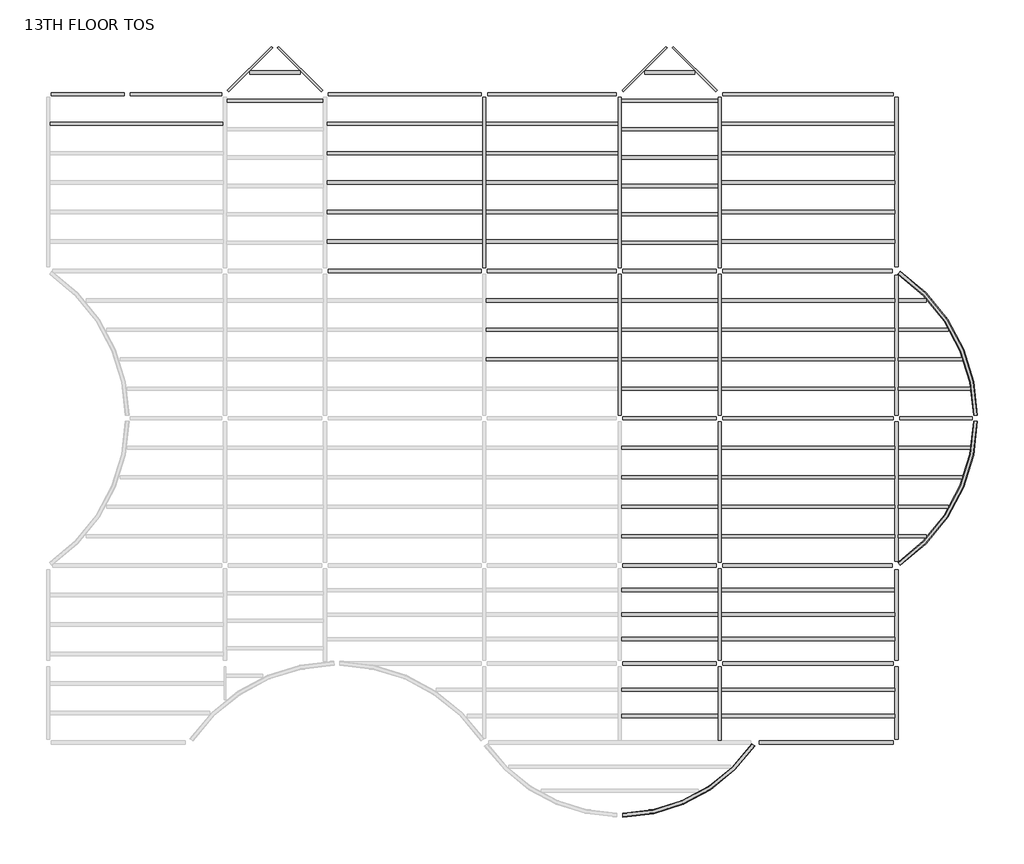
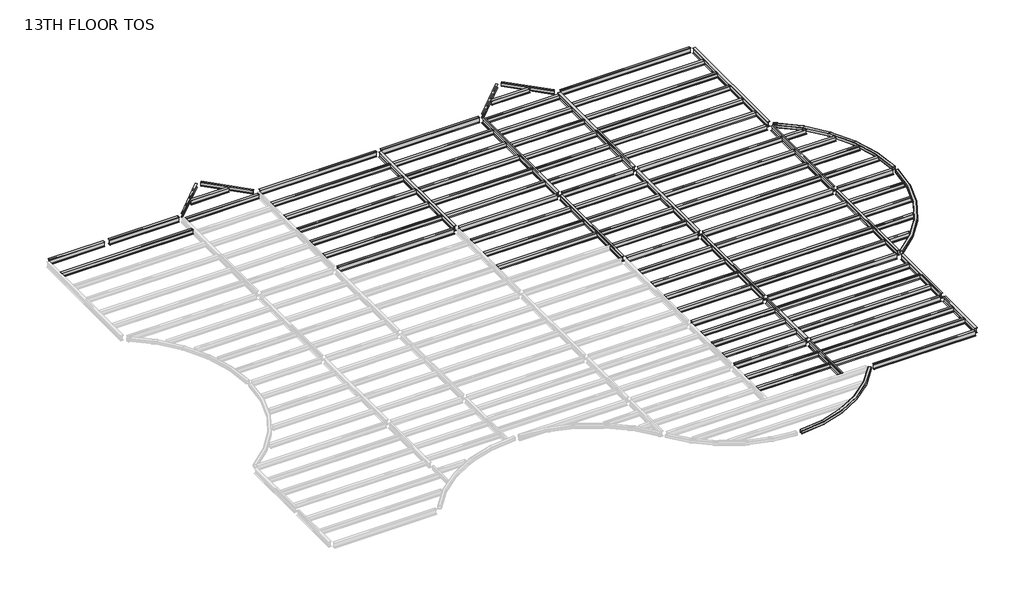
# One storey, part 2 of 2: 99 beams.
"""IFC4 building model written with IfcOpenShell, lengths in millimetres."""

from ifc_helpers import new_model, si_unit, origin, place, context, project, spatial, transform, mapped, element, save
from components import m_hss_square_hss203_2x203_2x9_5_28e91a4e, m_hss_square_hss203_2x203_2x9_5_f31329aa, m_hss_square_hss203_2x203_2x9_5_63507dff, ub_universal_beams_ub254x102x28_7812688d, ub_universal_beams_ub254x102x28_4a38c177, ub_universal_beams_ub305x165x40_c4d0385b, ub_universal_beams_ub305x165x40_19965e16, ub_universal_beams_ub305x165x40_d3abc31d, ub_universal_beams_ub305x165x40_0c73730f, ub_universal_beams_ub305x165x40_2a963f0c, ub_universal_beams_ub305x165x40_9ce7f2ee, ub_universal_beams_ub305x165x40_d184adfd, ub_universal_beams_ub305x165x40_bc7dc938, ub_universal_beams_ub305x165x40_b4233d25, ub_universal_beams_ub356x171x51_c708c058, ub_universal_beams_ub356x171x51_ef72dcdd, ub_universal_beams_ub356x171x51_10b3c54f, ub_universal_beams_ub356x171x51_4c9fd821, ub_universal_beams_ub356x171x51_d1a87c3c, ub_universal_beams_ub356x171x51_fa75724b, ub_universal_beams_ub356x171x51_68db896e, ub_universal_beams_ub356x171x51_c634c4a6, ub_universal_beams_ub356x171x51_995f1560, ub_universal_beams_ub356x171x51_dfc36663, ub_universal_beams_ub356x171x51_11d6b780, ub_universal_beams_ub356x171x51_76b2d20b, ub_universal_beams_ub356x171x51_145ecd4b, ub_universal_beams_ub356x171x51_c7dff8d2, ub_universal_beams_ub356x171x51_8a345439, ub_universal_beams_ub356x171x51_6da510e9, ub_universal_beams_ub356x171x51_e97f8d2e, ub_universal_beams_ub356x171x51_a38b99de, ub_universal_beams_ub356x171x51_d8f4cdde, ub_universal_beams_ub356x171x51_475301e6, ub_universal_beams_ub356x171x51_c03c70fb, ub_universal_beams_ub356x171x51_741bae58

model = new_model("IFC4")

# Units and contexts
model_context = context("Model", 3, world=origin())
ifc_project = project(units=[si_unit("LENGTHUNIT", "METRE", prefix="MILLI")], contexts=[model_context])

# Site, building, storey
site = spatial("IfcSite", under=ifc_project)
building = spatial("IfcBuilding", under=site)
storey = spatial("IfcBuildingStorey", under=building, Name="13TH FLOOR TOS", Elevation=59283.6)

# Beams
placement = place(None, origin())
m_hss_square_hss203_2x203_2x9_5_shape = m_hss_square_hss203_2x203_2x9_5_28e91a4e(model_context)
element("IfcBeam", 1, ObjectType="M_HSS Square : HSS203.2X203.2X9.5", at=placement, inside=storey, context=model_context, shape_type="MappedRepresentation", body=[
    mapped(m_hss_square_hss203_2x203_2x9_5_shape, transform((44027.575, 24539.575, 59182.1), x_axis=(0.8332810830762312, -0.5528495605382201, 0.0), y_axis=(0.5528495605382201, 0.8332810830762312, 0.0), z_axis=(0.0, 0.0, 1.0))),
])
m_hss_square_hss203_2x203_2x9_5_2_shape = m_hss_square_hss203_2x203_2x9_5_f31329aa(model_context)
element("IfcBeam", 2, ObjectType="M_HSS Square : HSS203.2X203.2X9.5", at=placement, inside=storey, context=model_context, shape_type="MappedRepresentation", body=[
    mapped(m_hss_square_hss203_2x203_2x9_5_2_shape, transform((44027.575, 9299.575, 59182.1), x_axis=(0.8332810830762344, 0.5528495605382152, 0.0), y_axis=(-0.5528495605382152, 0.8332810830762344, 0.0), z_axis=(0.0, 0.0, 1.0))),
])
m_hss_square_hss203_2x203_2x9_5_3_shape = m_hss_square_hss203_2x203_2x9_5_63507dff(model_context)
element("IfcBeam", 3, ObjectType="M_HSS Square : HSS203.2X203.2X9.5", at=placement, inside=storey, context=model_context, shape_type="MappedRepresentation", body=[
    mapped(m_hss_square_hss203_2x203_2x9_5_3_shape, transform((36716.575, 155.575, 59182.1), x_axis=(-0.5530174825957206, -0.8331696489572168, 0.0), y_axis=(0.8331696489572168, -0.5530174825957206, 0.0), z_axis=(0.0, 0.0, 1.0))),
])
ub_universal_beams_ub254x102x28_shape = ub_universal_beams_ub254x102x28_7812688d(model_context)
element("IfcBeam", 4, ObjectType="UB-Universal Beams : UB254x102x28", at=placement, inside=storey, context=model_context, shape_type="MappedRepresentation", body=[
    mapped(ub_universal_beams_ub254x102x28_shape, transform((10592.575, 34976.575, 59153.4), x_axis=(0.7071067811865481, 0.7071067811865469, 0.0), y_axis=(-0.7071067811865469, 0.7071067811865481, 0.0), z_axis=(0.0, 0.0, 1.0))),
])
element("IfcBeam", 5, ObjectType="UB-Universal Beams : UB254x102x28", at=placement, inside=storey, context=model_context, shape_type="MappedRepresentation", body=[
    mapped(ub_universal_beams_ub254x102x28_shape, transform((31004.575, 34976.575, 59153.4), x_axis=(0.7071067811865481, 0.7071067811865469, 0.0), y_axis=(-0.7071067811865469, 0.7071067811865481, 0.0), z_axis=(0.0, 0.0, 1.0))),
])
ub_universal_beams_ub254x102x28_2_shape = ub_universal_beams_ub254x102x28_4a38c177(model_context)
element("IfcBeam", 6, ObjectType="UB-Universal Beams : UB254x102x28", at=placement, inside=storey, context=model_context, shape_type="MappedRepresentation", body=[
    mapped(ub_universal_beams_ub254x102x28_2_shape, transform((13178.575, 34976.575, 59153.4), x_axis=(0.707106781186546, -0.707106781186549, 0.0), y_axis=(0.707106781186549, 0.707106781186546, 0.0), z_axis=(0.0, 0.0, 1.0))),
])
element("IfcBeam", 7, ObjectType="UB-Universal Beams : UB254x102x28", at=placement, inside=storey, context=model_context, shape_type="MappedRepresentation", body=[
    mapped(ub_universal_beams_ub254x102x28_2_shape, transform((33590.575, 34976.575, 59153.4), x_axis=(0.7071067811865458, -0.7071067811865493, 0.0), y_axis=(0.7071067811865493, 0.7071067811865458, 0.0), z_axis=(0.0, 0.0, 1.0))),
])
ub_universal_beams_ub305x165x40_shape = ub_universal_beams_ub305x165x40_c4d0385b(model_context)
element("IfcBeam", 8, ObjectType="UB-Universal Beams : UB305x165x40", at=placement, inside=storey, context=model_context, shape_type="MappedRepresentation", body=[
    mapped(ub_universal_beams_ub305x165x40_shape, transform((4727.575, 32159.575, 59131.9), x_axis=(1.0, 0.0, 0.0), y_axis=(0.0, 1.0, 0.0), z_axis=(0.0, 0.0, 1.0))),
])
element("IfcBeam", 9, ObjectType="UB-Universal Beams : UB305x165x40", at=placement, inside=storey, context=model_context, shape_type="MappedRepresentation", body=[
    mapped(ub_universal_beams_ub305x165x40_shape, transform((39455.575, 32159.575, 59131.9), x_axis=(1.0, 0.0, 0.0), y_axis=(0.0, 1.0, 0.0), z_axis=(0.0, 0.0, 1.0))),
])
element("IfcBeam", 10, ObjectType="UB-Universal Beams : UB305x165x40", at=placement, inside=storey, context=model_context, shape_type="MappedRepresentation", body=[
    mapped(ub_universal_beams_ub305x165x40_shape, transform((39455.575, 30635.575, 59131.9), x_axis=(1.0, 0.0, 0.0), y_axis=(0.0, 1.0, 0.0), z_axis=(0.0, 0.0, 1.0))),
])
element("IfcBeam", 11, ObjectType="UB-Universal Beams : UB305x165x40", at=placement, inside=storey, context=model_context, shape_type="MappedRepresentation", body=[
    mapped(ub_universal_beams_ub305x165x40_shape, transform((39455.575, 29111.575, 59131.9), x_axis=(1.0, 0.0, 0.0), y_axis=(0.0, 1.0, 0.0), z_axis=(0.0, 0.0, 1.0))),
])
element("IfcBeam", 12, ObjectType="UB-Universal Beams : UB305x165x40", at=placement, inside=storey, context=model_context, shape_type="MappedRepresentation", body=[
    mapped(ub_universal_beams_ub305x165x40_shape, transform((39455.575, 27587.575, 59131.9), x_axis=(1.0, 0.0, 0.0), y_axis=(0.0, 1.0, 0.0), z_axis=(0.0, 0.0, 1.0))),
])
element("IfcBeam", 13, ObjectType="UB-Universal Beams : UB305x165x40", at=placement, inside=storey, context=model_context, shape_type="MappedRepresentation", body=[
    mapped(ub_universal_beams_ub305x165x40_shape, transform((39455.575, 26063.575, 59131.9), x_axis=(1.0, 0.0, 0.0), y_axis=(0.0, 1.0, 0.0), z_axis=(0.0, 0.0, 1.0))),
])
element("IfcBeam", 14, ObjectType="UB-Universal Beams : UB305x165x40", at=placement, inside=storey, context=model_context, shape_type="MappedRepresentation", body=[
    mapped(ub_universal_beams_ub305x165x40_shape, transform((39455.575, 23015.575, 59131.9), x_axis=(1.0, 0.0, 0.0), y_axis=(0.0, 1.0, 0.0), z_axis=(0.0, 0.0, 1.0))),
])
element("IfcBeam", 15, ObjectType="UB-Universal Beams : UB305x165x40", at=placement, inside=storey, context=model_context, shape_type="MappedRepresentation", body=[
    mapped(ub_universal_beams_ub305x165x40_shape, transform((39455.575, 21491.575, 59131.9), x_axis=(1.0, 0.0, 0.0), y_axis=(0.0, 1.0, 0.0), z_axis=(0.0, 0.0, 1.0))),
])
element("IfcBeam", 16, ObjectType="UB-Universal Beams : UB305x165x40", at=placement, inside=storey, context=model_context, shape_type="MappedRepresentation", body=[
    mapped(ub_universal_beams_ub305x165x40_shape, transform((39455.575, 19967.575, 59131.9), x_axis=(1.0, 0.0, 0.0), y_axis=(0.0, 1.0, 0.0), z_axis=(0.0, 0.0, 1.0))),
])
element("IfcBeam", 17, ObjectType="UB-Universal Beams : UB305x165x40", at=placement, inside=storey, context=model_context, shape_type="MappedRepresentation", body=[
    mapped(ub_universal_beams_ub305x165x40_shape, transform((39455.575, 18443.575, 59131.9), x_axis=(1.0, 0.0, 0.0), y_axis=(0.0, 1.0, 0.0), z_axis=(0.0, 0.0, 1.0))),
])
element("IfcBeam", 18, ObjectType="UB-Universal Beams : UB305x165x40", at=placement, inside=storey, context=model_context, shape_type="MappedRepresentation", body=[
    mapped(ub_universal_beams_ub305x165x40_shape, transform((39455.575, 15395.575, 59131.9), x_axis=(1.0, 0.0, 0.0), y_axis=(0.0, 1.0, 0.0), z_axis=(0.0, 0.0, 1.0))),
])
element("IfcBeam", 19, ObjectType="UB-Universal Beams : UB305x165x40", at=placement, inside=storey, context=model_context, shape_type="MappedRepresentation", body=[
    mapped(ub_universal_beams_ub305x165x40_shape, transform((39455.575, 13871.575, 59131.9), x_axis=(1.0, 0.0, 0.0), y_axis=(0.0, 1.0, 0.0), z_axis=(0.0, 0.0, 1.0))),
])
element("IfcBeam", 20, ObjectType="UB-Universal Beams : UB305x165x40", at=placement, inside=storey, context=model_context, shape_type="MappedRepresentation", body=[
    mapped(ub_universal_beams_ub305x165x40_shape, transform((39455.575, 12347.575, 59131.9), x_axis=(1.0, 0.0, 0.0), y_axis=(0.0, 1.0, 0.0), z_axis=(0.0, 0.0, 1.0))),
])
element("IfcBeam", 21, ObjectType="UB-Universal Beams : UB305x165x40", at=placement, inside=storey, context=model_context, shape_type="MappedRepresentation", body=[
    mapped(ub_universal_beams_ub305x165x40_shape, transform((39455.575, 10823.575, 59131.9), x_axis=(1.0, 0.0, 0.0), y_axis=(0.0, 1.0, 0.0), z_axis=(0.0, 0.0, 1.0))),
])
element("IfcBeam", 22, ObjectType="UB-Universal Beams : UB305x165x40", at=placement, inside=storey, context=model_context, shape_type="MappedRepresentation", body=[
    mapped(ub_universal_beams_ub305x165x40_shape, transform((39455.575, 5508.325, 59131.9), x_axis=(-1.0, 0.0, 0.0), y_axis=(0.0, -1.0, 0.0), z_axis=(0.0, 0.0, 1.0))),
])
element("IfcBeam", 23, ObjectType="UB-Universal Beams : UB305x165x40", at=placement, inside=storey, context=model_context, shape_type="MappedRepresentation", body=[
    mapped(ub_universal_beams_ub305x165x40_shape, transform((39455.575, 6772.075, 59131.9), x_axis=(-1.0, 0.0, 0.0), y_axis=(0.0, -1.0, 0.0), z_axis=(0.0, 0.0, 1.0))),
])
element("IfcBeam", 24, ObjectType="UB-Universal Beams : UB305x165x40", at=placement, inside=storey, context=model_context, shape_type="MappedRepresentation", body=[
    mapped(ub_universal_beams_ub305x165x40_shape, transform((39455.575, 8035.825, 59131.9), x_axis=(-1.0, 0.0, 0.0), y_axis=(0.0, -1.0, 0.0), z_axis=(0.0, 0.0, 1.0))),
])
element("IfcBeam", 25, ObjectType="UB-Universal Beams : UB305x165x40", at=placement, inside=storey, context=model_context, shape_type="MappedRepresentation", body=[
    mapped(ub_universal_beams_ub305x165x40_shape, transform((39455.575, 1518.575, 59131.9), x_axis=(-1.0, 0.0, 0.0), y_axis=(0.0, -1.0, 0.0), z_axis=(0.0, 0.0, 1.0))),
])
element("IfcBeam", 26, ObjectType="UB-Universal Beams : UB305x165x40", at=placement, inside=storey, context=model_context, shape_type="MappedRepresentation", body=[
    mapped(ub_universal_beams_ub305x165x40_shape, transform((39455.575, 2881.575, 59131.9), x_axis=(-1.0, 0.0, 0.0), y_axis=(0.0, -1.0, 0.0), z_axis=(0.0, 0.0, 1.0))),
])
ub_universal_beams_ub305x165x40_2_shape = ub_universal_beams_ub305x165x40_19965e16(model_context)
element("IfcBeam", 27, ObjectType="UB-Universal Beams : UB305x165x40", at=placement, inside=storey, context=model_context, shape_type="MappedRepresentation", body=[
    mapped(ub_universal_beams_ub305x165x40_2_shape, transform((11885.575, 34803.325, 59131.9), x_axis=(1.0, 0.0, 0.0), y_axis=(0.0, 1.0, 0.0), z_axis=(0.0, 0.0, 1.0))),
])
element("IfcBeam", 28, ObjectType="UB-Universal Beams : UB305x165x40", at=placement, inside=storey, context=model_context, shape_type="MappedRepresentation", body=[
    mapped(ub_universal_beams_ub305x165x40_2_shape, transform((32297.575, 34803.325, 59131.9), x_axis=(1.0, 0.0, 0.0), y_axis=(0.0, 1.0, 0.0), z_axis=(0.0, 0.0, 1.0))),
])
ub_universal_beams_ub305x165x40_3_shape = ub_universal_beams_ub305x165x40_d3abc31d(model_context)
element("IfcBeam", 29, ObjectType="UB-Universal Beams : UB305x165x40", at=placement, inside=storey, context=model_context, shape_type="MappedRepresentation", body=[
    mapped(ub_universal_beams_ub305x165x40_3_shape, transform((11885.575, 33337.075, 59131.9), x_axis=(1.0, 0.0, 0.0), y_axis=(0.0, 1.0, 0.0), z_axis=(0.0, 0.0, 1.0))),
])
element("IfcBeam", 30, ObjectType="UB-Universal Beams : UB305x165x40", at=placement, inside=storey, context=model_context, shape_type="MappedRepresentation", body=[
    mapped(ub_universal_beams_ub305x165x40_3_shape, transform((32297.575, 33337.075, 59131.9), x_axis=(1.0, 0.0, 0.0), y_axis=(0.0, 1.0, 0.0), z_axis=(0.0, 0.0, 1.0))),
])
element("IfcBeam", 31, ObjectType="UB-Universal Beams : UB305x165x40", at=placement, inside=storey, context=model_context, shape_type="MappedRepresentation", body=[
    mapped(ub_universal_beams_ub305x165x40_3_shape, transform((32297.575, 31870.825, 59131.9), x_axis=(1.0, 0.0, 0.0), y_axis=(0.0, 1.0, 0.0), z_axis=(0.0, 0.0, 1.0))),
])
element("IfcBeam", 32, ObjectType="UB-Universal Beams : UB305x165x40", at=placement, inside=storey, context=model_context, shape_type="MappedRepresentation", body=[
    mapped(ub_universal_beams_ub305x165x40_3_shape, transform((32297.575, 30404.575, 59131.9), x_axis=(1.0, 0.0, 0.0), y_axis=(0.0, 1.0, 0.0), z_axis=(0.0, 0.0, 1.0))),
])
element("IfcBeam", 33, ObjectType="UB-Universal Beams : UB305x165x40", at=placement, inside=storey, context=model_context, shape_type="MappedRepresentation", body=[
    mapped(ub_universal_beams_ub305x165x40_3_shape, transform((32297.575, 28938.325, 59131.9), x_axis=(1.0, 0.0, 0.0), y_axis=(0.0, 1.0, 0.0), z_axis=(0.0, 0.0, 1.0))),
])
element("IfcBeam", 34, ObjectType="UB-Universal Beams : UB305x165x40", at=placement, inside=storey, context=model_context, shape_type="MappedRepresentation", body=[
    mapped(ub_universal_beams_ub305x165x40_3_shape, transform((32297.575, 27472.075, 59131.9), x_axis=(1.0, 0.0, 0.0), y_axis=(0.0, 1.0, 0.0), z_axis=(0.0, 0.0, 1.0))),
])
element("IfcBeam", 35, ObjectType="UB-Universal Beams : UB305x165x40", at=placement, inside=storey, context=model_context, shape_type="MappedRepresentation", body=[
    mapped(ub_universal_beams_ub305x165x40_3_shape, transform((32297.575, 26005.825, 59131.9), x_axis=(1.0, 0.0, 0.0), y_axis=(0.0, 1.0, 0.0), z_axis=(0.0, 0.0, 1.0))),
])
element("IfcBeam", 36, ObjectType="UB-Universal Beams : UB305x165x40", at=placement, inside=storey, context=model_context, shape_type="MappedRepresentation", body=[
    mapped(ub_universal_beams_ub305x165x40_3_shape, transform((32297.575, 1518.575, 59131.9), x_axis=(-1.0, 0.0, 0.0), y_axis=(0.0, -1.0, 0.0), z_axis=(0.0, 0.0, 1.0))),
])
element("IfcBeam", 37, ObjectType="UB-Universal Beams : UB305x165x40", at=placement, inside=storey, context=model_context, shape_type="MappedRepresentation", body=[
    mapped(ub_universal_beams_ub305x165x40_3_shape, transform((32297.575, 2881.575, 59131.9), x_axis=(-1.0, 0.0, 0.0), y_axis=(0.0, -1.0, 0.0), z_axis=(0.0, 0.0, 1.0))),
])
element("IfcBeam", 38, ObjectType="UB-Universal Beams : UB305x165x40", at=placement, inside=storey, context=model_context, shape_type="MappedRepresentation", body=[
    mapped(ub_universal_beams_ub305x165x40_3_shape, transform((32297.575, 5508.325, 59131.9), x_axis=(-1.0, 0.0, 0.0), y_axis=(0.0, -1.0, 0.0), z_axis=(0.0, 0.0, 1.0))),
])
element("IfcBeam", 39, ObjectType="UB-Universal Beams : UB305x165x40", at=placement, inside=storey, context=model_context, shape_type="MappedRepresentation", body=[
    mapped(ub_universal_beams_ub305x165x40_3_shape, transform((32297.575, 6772.075, 59131.9), x_axis=(-1.0, 0.0, 0.0), y_axis=(0.0, -1.0, 0.0), z_axis=(0.0, 0.0, 1.0))),
])
element("IfcBeam", 40, ObjectType="UB-Universal Beams : UB305x165x40", at=placement, inside=storey, context=model_context, shape_type="MappedRepresentation", body=[
    mapped(ub_universal_beams_ub305x165x40_3_shape, transform((32297.575, 8035.825, 59131.9), x_axis=(-1.0, 0.0, 0.0), y_axis=(0.0, -1.0, 0.0), z_axis=(0.0, 0.0, 1.0))),
])
element("IfcBeam", 41, ObjectType="UB-Universal Beams : UB305x165x40", at=placement, inside=storey, context=model_context, shape_type="MappedRepresentation", body=[
    mapped(ub_universal_beams_ub305x165x40_3_shape, transform((32297.575, 15395.575, 59131.9), x_axis=(1.0, 0.0, 0.0), y_axis=(0.0, 1.0, 0.0), z_axis=(0.0, 0.0, 1.0))),
])
element("IfcBeam", 42, ObjectType="UB-Universal Beams : UB305x165x40", at=placement, inside=storey, context=model_context, shape_type="MappedRepresentation", body=[
    mapped(ub_universal_beams_ub305x165x40_3_shape, transform((32297.575, 13871.575, 59131.9), x_axis=(1.0, 0.0, 0.0), y_axis=(0.0, 1.0, 0.0), z_axis=(0.0, 0.0, 1.0))),
])
element("IfcBeam", 43, ObjectType="UB-Universal Beams : UB305x165x40", at=placement, inside=storey, context=model_context, shape_type="MappedRepresentation", body=[
    mapped(ub_universal_beams_ub305x165x40_3_shape, transform((32297.575, 12347.575, 59131.9), x_axis=(1.0, 0.0, 0.0), y_axis=(0.0, 1.0, 0.0), z_axis=(0.0, 0.0, 1.0))),
])
element("IfcBeam", 44, ObjectType="UB-Universal Beams : UB305x165x40", at=placement, inside=storey, context=model_context, shape_type="MappedRepresentation", body=[
    mapped(ub_universal_beams_ub305x165x40_3_shape, transform((32297.575, 10823.575, 59131.9), x_axis=(1.0, 0.0, 0.0), y_axis=(0.0, 1.0, 0.0), z_axis=(0.0, 0.0, 1.0))),
])
element("IfcBeam", 45, ObjectType="UB-Universal Beams : UB305x165x40", at=placement, inside=storey, context=model_context, shape_type="MappedRepresentation", body=[
    mapped(ub_universal_beams_ub305x165x40_3_shape, transform((32297.575, 23015.575, 59131.9), x_axis=(1.0, 0.0, 0.0), y_axis=(0.0, 1.0, 0.0), z_axis=(0.0, 0.0, 1.0))),
])
element("IfcBeam", 46, ObjectType="UB-Universal Beams : UB305x165x40", at=placement, inside=storey, context=model_context, shape_type="MappedRepresentation", body=[
    mapped(ub_universal_beams_ub305x165x40_3_shape, transform((32297.575, 21491.575, 59131.9), x_axis=(1.0, 0.0, 0.0), y_axis=(0.0, 1.0, 0.0), z_axis=(0.0, 0.0, 1.0))),
])
element("IfcBeam", 47, ObjectType="UB-Universal Beams : UB305x165x40", at=placement, inside=storey, context=model_context, shape_type="MappedRepresentation", body=[
    mapped(ub_universal_beams_ub305x165x40_3_shape, transform((32297.575, 19967.575, 59131.9), x_axis=(1.0, 0.0, 0.0), y_axis=(0.0, 1.0, 0.0), z_axis=(0.0, 0.0, 1.0))),
])
element("IfcBeam", 48, ObjectType="UB-Universal Beams : UB305x165x40", at=placement, inside=storey, context=model_context, shape_type="MappedRepresentation", body=[
    mapped(ub_universal_beams_ub305x165x40_3_shape, transform((32297.575, 18443.575, 59131.9), x_axis=(1.0, 0.0, 0.0), y_axis=(0.0, 1.0, 0.0), z_axis=(0.0, 0.0, 1.0))),
])
ub_universal_beams_ub305x165x40_4_shape = ub_universal_beams_ub305x165x40_0c73730f(model_context)
element("IfcBeam", 49, ObjectType="UB-Universal Beams : UB305x165x40", at=placement, inside=storey, context=model_context, shape_type="MappedRepresentation", body=[
    mapped(ub_universal_beams_ub305x165x40_4_shape, transform((18591.075, 32159.575, 59131.9), x_axis=(1.0, 0.0, 0.0), y_axis=(0.0, 1.0, 0.0), z_axis=(0.0, 0.0, 1.0))),
])
element("IfcBeam", 50, ObjectType="UB-Universal Beams : UB305x165x40", at=placement, inside=storey, context=model_context, shape_type="MappedRepresentation", body=[
    mapped(ub_universal_beams_ub305x165x40_4_shape, transform((18591.075, 30635.575, 59131.9), x_axis=(1.0, 0.0, 0.0), y_axis=(0.0, 1.0, 0.0), z_axis=(0.0, 0.0, 1.0))),
])
element("IfcBeam", 51, ObjectType="UB-Universal Beams : UB305x165x40", at=placement, inside=storey, context=model_context, shape_type="MappedRepresentation", body=[
    mapped(ub_universal_beams_ub305x165x40_4_shape, transform((18591.075, 29111.575, 59131.9), x_axis=(1.0, 0.0, 0.0), y_axis=(0.0, 1.0, 0.0), z_axis=(0.0, 0.0, 1.0))),
])
element("IfcBeam", 52, ObjectType="UB-Universal Beams : UB305x165x40", at=placement, inside=storey, context=model_context, shape_type="MappedRepresentation", body=[
    mapped(ub_universal_beams_ub305x165x40_4_shape, transform((18591.075, 27587.575, 59131.9), x_axis=(1.0, 0.0, 0.0), y_axis=(0.0, 1.0, 0.0), z_axis=(0.0, 0.0, 1.0))),
])
element("IfcBeam", 53, ObjectType="UB-Universal Beams : UB305x165x40", at=placement, inside=storey, context=model_context, shape_type="MappedRepresentation", body=[
    mapped(ub_universal_beams_ub305x165x40_4_shape, transform((18591.075, 26063.575, 59131.9), x_axis=(1.0, 0.0, 0.0), y_axis=(0.0, 1.0, 0.0), z_axis=(0.0, 0.0, 1.0))),
])
ub_universal_beams_ub305x165x40_5_shape = ub_universal_beams_ub305x165x40_2a963f0c(model_context)
element("IfcBeam", 54, ObjectType="UB-Universal Beams : UB305x165x40", at=placement, inside=storey, context=model_context, shape_type="MappedRepresentation", body=[
    mapped(ub_universal_beams_ub305x165x40_5_shape, transform((26211.075, 32159.575, 59131.9), x_axis=(1.0, 0.0, 0.0), y_axis=(0.0, 1.0, 0.0), z_axis=(0.0, 0.0, 1.0))),
])
element("IfcBeam", 55, ObjectType="UB-Universal Beams : UB305x165x40", at=placement, inside=storey, context=model_context, shape_type="MappedRepresentation", body=[
    mapped(ub_universal_beams_ub305x165x40_5_shape, transform((26211.075, 30635.575, 59131.9), x_axis=(1.0, 0.0, 0.0), y_axis=(0.0, 1.0, 0.0), z_axis=(0.0, 0.0, 1.0))),
])
element("IfcBeam", 56, ObjectType="UB-Universal Beams : UB305x165x40", at=placement, inside=storey, context=model_context, shape_type="MappedRepresentation", body=[
    mapped(ub_universal_beams_ub305x165x40_5_shape, transform((26211.075, 29111.575, 59131.9), x_axis=(1.0, 0.0, 0.0), y_axis=(0.0, 1.0, 0.0), z_axis=(0.0, 0.0, 1.0))),
])
element("IfcBeam", 57, ObjectType="UB-Universal Beams : UB305x165x40", at=placement, inside=storey, context=model_context, shape_type="MappedRepresentation", body=[
    mapped(ub_universal_beams_ub305x165x40_5_shape, transform((26211.075, 27587.575, 59131.9), x_axis=(1.0, 0.0, 0.0), y_axis=(0.0, 1.0, 0.0), z_axis=(0.0, 0.0, 1.0))),
])
element("IfcBeam", 58, ObjectType="UB-Universal Beams : UB305x165x40", at=placement, inside=storey, context=model_context, shape_type="MappedRepresentation", body=[
    mapped(ub_universal_beams_ub305x165x40_5_shape, transform((26211.075, 26063.575, 59131.9), x_axis=(1.0, 0.0, 0.0), y_axis=(0.0, 1.0, 0.0), z_axis=(0.0, 0.0, 1.0))),
])
element("IfcBeam", 59, ObjectType="UB-Universal Beams : UB305x165x40", at=placement, inside=storey, context=model_context, shape_type="MappedRepresentation", body=[
    mapped(ub_universal_beams_ub305x165x40_5_shape, transform((26211.075, 23015.575, 59131.9), x_axis=(1.0, 0.0, 0.0), y_axis=(0.0, 1.0, 0.0), z_axis=(0.0, 0.0, 1.0))),
])
element("IfcBeam", 60, ObjectType="UB-Universal Beams : UB305x165x40", at=placement, inside=storey, context=model_context, shape_type="MappedRepresentation", body=[
    mapped(ub_universal_beams_ub305x165x40_5_shape, transform((26211.075, 21491.575, 59131.9), x_axis=(1.0, 0.0, 0.0), y_axis=(0.0, 1.0, 0.0), z_axis=(0.0, 0.0, 1.0))),
])
element("IfcBeam", 61, ObjectType="UB-Universal Beams : UB305x165x40", at=placement, inside=storey, context=model_context, shape_type="MappedRepresentation", body=[
    mapped(ub_universal_beams_ub305x165x40_5_shape, transform((26211.075, 19967.575, 59131.9), x_axis=(1.0, 0.0, 0.0), y_axis=(0.0, 1.0, 0.0), z_axis=(0.0, 0.0, 1.0))),
])
ub_universal_beams_ub305x165x40_6_shape = ub_universal_beams_ub305x165x40_9ce7f2ee(model_context)
element("IfcBeam", 62, ObjectType="UB-Universal Beams : UB305x165x40", at=placement, inside=storey, context=model_context, shape_type="MappedRepresentation", body=[
    mapped(ub_universal_beams_ub305x165x40_6_shape, transform((44907.9405309, 23015.575, 59131.9), x_axis=(1.0, 0.0, 0.0), y_axis=(0.0, 1.0, 0.0), z_axis=(0.0, 0.0, 1.0))),
])
element("IfcBeam", 63, ObjectType="UB-Universal Beams : UB305x165x40", at=placement, inside=storey, context=model_context, shape_type="MappedRepresentation", body=[
    mapped(ub_universal_beams_ub305x165x40_6_shape, transform((44907.9405309, 10823.575, 59131.9), x_axis=(1.0, 0.0, 0.0), y_axis=(0.0, 1.0, 0.0), z_axis=(0.0, 0.0, 1.0))),
])
ub_universal_beams_ub305x165x40_7_shape = ub_universal_beams_ub305x165x40_d184adfd(model_context)
element("IfcBeam", 64, ObjectType="UB-Universal Beams : UB305x165x40", at=placement, inside=storey, context=model_context, shape_type="MappedRepresentation", body=[
    mapped(ub_universal_beams_ub305x165x40_7_shape, transform((45459.5874928, 21491.575, 59131.9), x_axis=(1.0, 0.0, 0.0), y_axis=(0.0, 1.0, 0.0), z_axis=(0.0, 0.0, 1.0))),
])
element("IfcBeam", 65, ObjectType="UB-Universal Beams : UB305x165x40", at=placement, inside=storey, context=model_context, shape_type="MappedRepresentation", body=[
    mapped(ub_universal_beams_ub305x165x40_7_shape, transform((45459.5874928, 12347.575, 59131.9), x_axis=(1.0, 0.0, 0.0), y_axis=(0.0, 1.0, 0.0), z_axis=(0.0, 0.0, 1.0))),
])
ub_universal_beams_ub305x165x40_8_shape = ub_universal_beams_ub305x165x40_bc7dc938(model_context)
element("IfcBeam", 66, ObjectType="UB-Universal Beams : UB305x165x40", at=placement, inside=storey, context=model_context, shape_type="MappedRepresentation", body=[
    mapped(ub_universal_beams_ub305x165x40_8_shape, transform((45810.6153272, 19967.575, 59131.9), x_axis=(1.0, 0.0, 0.0), y_axis=(0.0, 1.0, 0.0), z_axis=(0.0, 0.0, 1.0))),
])
element("IfcBeam", 67, ObjectType="UB-Universal Beams : UB305x165x40", at=placement, inside=storey, context=model_context, shape_type="MappedRepresentation", body=[
    mapped(ub_universal_beams_ub305x165x40_8_shape, transform((45810.6153272, 13871.575, 59131.9), x_axis=(1.0, 0.0, 0.0), y_axis=(0.0, 1.0, 0.0), z_axis=(0.0, 0.0, 1.0))),
])
ub_universal_beams_ub305x165x40_9_shape = ub_universal_beams_ub305x165x40_b4233d25(model_context)
element("IfcBeam", 68, ObjectType="UB-Universal Beams : UB305x165x40", at=placement, inside=storey, context=model_context, shape_type="MappedRepresentation", body=[
    mapped(ub_universal_beams_ub305x165x40_9_shape, transform((46008.1318611, 18443.575, 59131.9), x_axis=(1.0, 0.0, 0.0), y_axis=(0.0, 1.0, 0.0), z_axis=(0.0, 0.0, 1.0))),
])
element("IfcBeam", 69, ObjectType="UB-Universal Beams : UB305x165x40", at=placement, inside=storey, context=model_context, shape_type="MappedRepresentation", body=[
    mapped(ub_universal_beams_ub305x165x40_9_shape, transform((46008.1318611, 15395.575, 59131.9), x_axis=(1.0, 0.0, 0.0), y_axis=(0.0, 1.0, 0.0), z_axis=(0.0, 0.0, 1.0))),
])
ub_universal_beams_ub356x171x51_shape = ub_universal_beams_ub356x171x51_c708c058(model_context)
element("IfcBeam", 70, ObjectType="UB-Universal Beams : UB356x171x51", at=placement, inside=storey, context=model_context, shape_type="MappedRepresentation", body=[
    mapped(ub_universal_beams_ub356x171x51_shape, transform((2200.075, 33683.575, 59106.1), x_axis=(1.0, 0.0, 0.0), y_axis=(0.0, 1.0, 0.0), z_axis=(0.0, 0.0, 1.0))),
])
ub_universal_beams_ub356x171x51_2_shape = ub_universal_beams_ub356x171x51_ef72dcdd(model_context)
element("IfcBeam", 71, ObjectType="UB-Universal Beams : UB356x171x51", at=placement, inside=storey, context=model_context, shape_type="MappedRepresentation", body=[
    mapped(ub_universal_beams_ub356x171x51_2_shape, transform((6772.075, 33683.575, 59106.1), x_axis=(1.0, 0.0, 0.0), y_axis=(0.0, 1.0, 0.0), z_axis=(0.0, 0.0, 1.0))),
])
element("IfcBeam", 72, ObjectType="UB-Universal Beams : UB356x171x51", at=placement, inside=storey, context=model_context, shape_type="MappedRepresentation", body=[
    mapped(ub_universal_beams_ub356x171x51_2_shape, transform((34883.575, 6772.075, 59106.1), x_axis=(0.0, -1.0, 0.0), y_axis=(1.0, 0.0, 0.0), z_axis=(0.0, 0.0, 1.0))),
])
ub_universal_beams_ub356x171x51_3_shape = ub_universal_beams_ub356x171x51_10b3c54f(model_context)
element("IfcBeam", 73, ObjectType="UB-Universal Beams : UB356x171x51", at=placement, inside=storey, context=model_context, shape_type="MappedRepresentation", body=[
    mapped(ub_universal_beams_ub356x171x51_3_shape, transform((18591.075, 33683.575, 59106.1), x_axis=(1.0, 0.0, 0.0), y_axis=(0.0, 1.0, 0.0), z_axis=(0.0, 0.0, 1.0))),
])
ub_universal_beams_ub356x171x51_4_shape = ub_universal_beams_ub356x171x51_4c9fd821(model_context)
element("IfcBeam", 74, ObjectType="UB-Universal Beams : UB356x171x51", at=placement, inside=storey, context=model_context, shape_type="MappedRepresentation", body=[
    mapped(ub_universal_beams_ub356x171x51_4_shape, transform((26211.075, 33683.575, 59106.1), x_axis=(1.0, 0.0, 0.0), y_axis=(0.0, 1.0, 0.0), z_axis=(0.0, 0.0, 1.0))),
])
ub_universal_beams_ub356x171x51_5_shape = ub_universal_beams_ub356x171x51_d1a87c3c(model_context)
element("IfcBeam", 75, ObjectType="UB-Universal Beams : UB356x171x51", at=placement, inside=storey, context=model_context, shape_type="MappedRepresentation", body=[
    mapped(ub_universal_beams_ub356x171x51_5_shape, transform((39455.575, 33683.575, 59106.1), x_axis=(1.0, 0.0, 0.0), y_axis=(0.0, 1.0, 0.0), z_axis=(0.0, 0.0, 1.0))),
])
ub_universal_beams_ub356x171x51_6_shape = ub_universal_beams_ub356x171x51_fa75724b(model_context)
element("IfcBeam", 76, ObjectType="UB-Universal Beams : UB356x171x51", at=placement, inside=storey, context=model_context, shape_type="MappedRepresentation", body=[
    mapped(ub_universal_beams_ub356x171x51_6_shape, transform((44027.575, 29111.575, 59106.1), x_axis=(0.0, -1.0, 0.0), y_axis=(1.0, 0.0, 0.0), z_axis=(0.0, 0.0, 1.0))),
])
ub_universal_beams_ub356x171x51_7_shape = ub_universal_beams_ub356x171x51_68db896e(model_context)
element("IfcBeam", 77, ObjectType="UB-Universal Beams : UB356x171x51", at=placement, inside=storey, context=model_context, shape_type="MappedRepresentation", body=[
    mapped(ub_universal_beams_ub356x171x51_7_shape, transform((44027.575, 6772.075, 59106.1), x_axis=(0.0, -1.0, 0.0), y_axis=(1.0, 0.0, 0.0), z_axis=(0.0, 0.0, 1.0))),
])
ub_universal_beams_ub356x171x51_8_shape = ub_universal_beams_ub356x171x51_c634c4a6(model_context)
element("IfcBeam", 78, ObjectType="UB-Universal Beams : UB356x171x51", at=placement, inside=storey, context=model_context, shape_type="MappedRepresentation", body=[
    mapped(ub_universal_beams_ub356x171x51_8_shape, transform((44027.575, 2200.075, 59106.1), x_axis=(0.0, -1.0, 0.0), y_axis=(1.0, 0.0, 0.0), z_axis=(0.0, 0.0, 1.0))),
])
ub_universal_beams_ub356x171x51_9_shape = ub_universal_beams_ub356x171x51_995f1560(model_context)
element("IfcBeam", 79, ObjectType="UB-Universal Beams : UB356x171x51", at=placement, inside=storey, context=model_context, shape_type="MappedRepresentation", body=[
    mapped(ub_universal_beams_ub356x171x51_9_shape, transform((40372.075, 155.575, 59106.1), x_axis=(-1.0, 0.0, 0.0), y_axis=(0.0, -1.0, 0.0), z_axis=(0.0, 0.0, 1.0))),
])
ub_universal_beams_ub356x171x51_10_shape = ub_universal_beams_ub356x171x51_dfc36663(model_context)
element("IfcBeam", 80, ObjectType="UB-Universal Beams : UB356x171x51", at=placement, inside=storey, context=model_context, shape_type="MappedRepresentation", body=[
    mapped(ub_universal_beams_ub356x171x51_10_shape, transform((46072.075, 16919.575, 59106.1), x_axis=(1.0, 0.0, 0.0), y_axis=(0.0, 1.0, 0.0), z_axis=(0.0, 0.0, 1.0))),
])
ub_universal_beams_ub356x171x51_11_shape = ub_universal_beams_ub356x171x51_11d6b780(model_context)
element("IfcBeam", 81, ObjectType="UB-Universal Beams : UB356x171x51", at=placement, inside=storey, context=model_context, shape_type="MappedRepresentation", body=[
    mapped(ub_universal_beams_ub356x171x51_11_shape, transform((32297.575, 24539.575, 59106.1), x_axis=(1.0, 0.0, 0.0), y_axis=(0.0, 1.0, 0.0), z_axis=(0.0, 0.0, 1.0))),
])
element("IfcBeam", 82, ObjectType="UB-Universal Beams : UB356x171x51", at=placement, inside=storey, context=model_context, shape_type="MappedRepresentation", body=[
    mapped(ub_universal_beams_ub356x171x51_11_shape, transform((32297.575, 9299.575, 59106.1), x_axis=(-1.0, 0.0, 0.0), y_axis=(0.0, -1.0, 0.0), z_axis=(0.0, 0.0, 1.0))),
])
element("IfcBeam", 83, ObjectType="UB-Universal Beams : UB356x171x51", at=placement, inside=storey, context=model_context, shape_type="MappedRepresentation", body=[
    mapped(ub_universal_beams_ub356x171x51_11_shape, transform((32297.575, 16919.575, 59106.1), x_axis=(1.0, 0.0, 0.0), y_axis=(0.0, 1.0, 0.0), z_axis=(0.0, 0.0, 1.0))),
])
element("IfcBeam", 84, ObjectType="UB-Universal Beams : UB356x171x51", at=placement, inside=storey, context=model_context, shape_type="MappedRepresentation", body=[
    mapped(ub_universal_beams_ub356x171x51_11_shape, transform((32297.575, 4244.575, 59106.1), x_axis=(-1.0, 0.0, 0.0), y_axis=(0.0, -1.0, 0.0), z_axis=(0.0, 0.0, 1.0))),
])
ub_universal_beams_ub356x171x51_12_shape = ub_universal_beams_ub356x171x51_76b2d20b(model_context)
element("IfcBeam", 85, ObjectType="UB-Universal Beams : UB356x171x51", at=placement, inside=storey, context=model_context, shape_type="MappedRepresentation", body=[
    mapped(ub_universal_beams_ub356x171x51_12_shape, transform((18591.075, 24539.575, 59106.1), x_axis=(1.0, 0.0, 0.0), y_axis=(0.0, 1.0, 0.0), z_axis=(0.0, 0.0, 1.0))),
])
ub_universal_beams_ub356x171x51_13_shape = ub_universal_beams_ub356x171x51_145ecd4b(model_context)
element("IfcBeam", 86, ObjectType="UB-Universal Beams : UB356x171x51", at=placement, inside=storey, context=model_context, shape_type="MappedRepresentation", body=[
    mapped(ub_universal_beams_ub356x171x51_13_shape, transform((26211.075, 24539.575, 59106.1), x_axis=(1.0, 0.0, 0.0), y_axis=(0.0, 1.0, 0.0), z_axis=(0.0, 0.0, 1.0))),
])
ub_universal_beams_ub356x171x51_14_shape = ub_universal_beams_ub356x171x51_c7dff8d2(model_context)
element("IfcBeam", 87, ObjectType="UB-Universal Beams : UB356x171x51", at=placement, inside=storey, context=model_context, shape_type="MappedRepresentation", body=[
    mapped(ub_universal_beams_ub356x171x51_14_shape, transform((39455.575, 24539.575, 59106.1), x_axis=(1.0, 0.0, 0.0), y_axis=(0.0, 1.0, 0.0), z_axis=(0.0, 0.0, 1.0))),
])
ub_universal_beams_ub356x171x51_15_shape = ub_universal_beams_ub356x171x51_8a345439(model_context)
element("IfcBeam", 88, ObjectType="UB-Universal Beams : UB356x171x51", at=placement, inside=storey, context=model_context, shape_type="MappedRepresentation", body=[
    mapped(ub_universal_beams_ub356x171x51_15_shape, transform((44027.575, 20729.575, 59106.1), x_axis=(0.0, -1.0, 0.0), y_axis=(1.0, 0.0, 0.0), z_axis=(0.0, 0.0, 1.0))),
])
ub_universal_beams_ub356x171x51_16_shape = ub_universal_beams_ub356x171x51_6da510e9(model_context)
element("IfcBeam", 89, ObjectType="UB-Universal Beams : UB356x171x51", at=placement, inside=storey, context=model_context, shape_type="MappedRepresentation", body=[
    mapped(ub_universal_beams_ub356x171x51_16_shape, transform((44027.575, 13109.575, 59106.1), x_axis=(0.0, -1.0, 0.0), y_axis=(1.0, 0.0, 0.0), z_axis=(0.0, 0.0, 1.0))),
])
ub_universal_beams_ub356x171x51_17_shape = ub_universal_beams_ub356x171x51_e97f8d2e(model_context)
element("IfcBeam", 90, ObjectType="UB-Universal Beams : UB356x171x51", at=placement, inside=storey, context=model_context, shape_type="MappedRepresentation", body=[
    mapped(ub_universal_beams_ub356x171x51_17_shape, transform((39455.575, 9299.575, 59106.1), x_axis=(-1.0, 0.0, 0.0), y_axis=(0.0, -1.0, 0.0), z_axis=(0.0, 0.0, 1.0))),
])
ub_universal_beams_ub356x171x51_18_shape = ub_universal_beams_ub356x171x51_a38b99de(model_context)
element("IfcBeam", 91, ObjectType="UB-Universal Beams : UB356x171x51", at=placement, inside=storey, context=model_context, shape_type="MappedRepresentation", body=[
    mapped(ub_universal_beams_ub356x171x51_18_shape, transform((34883.575, 20729.575, 59106.1), x_axis=(0.0, -1.0, 0.0), y_axis=(1.0, 0.0, 0.0), z_axis=(0.0, 0.0, 1.0))),
])
element("IfcBeam", 92, ObjectType="UB-Universal Beams : UB356x171x51", at=placement, inside=storey, context=model_context, shape_type="MappedRepresentation", body=[
    mapped(ub_universal_beams_ub356x171x51_18_shape, transform((34883.575, 13109.575, 59106.1), x_axis=(0.0, -1.0, 0.0), y_axis=(1.0, 0.0, 0.0), z_axis=(0.0, 0.0, 1.0))),
])
element("IfcBeam", 93, ObjectType="UB-Universal Beams : UB356x171x51", at=placement, inside=storey, context=model_context, shape_type="MappedRepresentation", body=[
    mapped(ub_universal_beams_ub356x171x51_18_shape, transform((29711.575, 20729.575, 59106.1), x_axis=(0.0, 1.0, 0.0), y_axis=(-1.0, 0.0, 0.0), z_axis=(0.0, 0.0, 1.0))),
])
ub_universal_beams_ub356x171x51_19_shape = ub_universal_beams_ub356x171x51_d8f4cdde(model_context)
element("IfcBeam", 94, ObjectType="UB-Universal Beams : UB356x171x51", at=placement, inside=storey, context=model_context, shape_type="MappedRepresentation", body=[
    mapped(ub_universal_beams_ub356x171x51_19_shape, transform((29711.575, 29111.575, 59106.1), x_axis=(0.0, 1.0, 0.0), y_axis=(-1.0, 0.0, 0.0), z_axis=(0.0, 0.0, 1.0))),
])
ub_universal_beams_ub356x171x51_20_shape = ub_universal_beams_ub356x171x51_475301e6(model_context)
element("IfcBeam", 95, ObjectType="UB-Universal Beams : UB356x171x51", at=placement, inside=storey, context=model_context, shape_type="MappedRepresentation", body=[
    mapped(ub_universal_beams_ub356x171x51_20_shape, transform((39455.575, 16919.575, 59106.1), x_axis=(1.0, 0.0, 0.0), y_axis=(0.0, 1.0, 0.0), z_axis=(0.0, 0.0, 1.0))),
])
element("IfcBeam", 96, ObjectType="UB-Universal Beams : UB356x171x51", at=placement, inside=storey, context=model_context, shape_type="MappedRepresentation", body=[
    mapped(ub_universal_beams_ub356x171x51_20_shape, transform((39455.575, 4244.575, 59106.1), x_axis=(-1.0, 0.0, 0.0), y_axis=(0.0, -1.0, 0.0), z_axis=(0.0, 0.0, 1.0))),
])
ub_universal_beams_ub356x171x51_21_shape = ub_universal_beams_ub356x171x51_c03c70fb(model_context)
element("IfcBeam", 97, ObjectType="UB-Universal Beams : UB356x171x51", at=placement, inside=storey, context=model_context, shape_type="MappedRepresentation", body=[
    mapped(ub_universal_beams_ub356x171x51_21_shape, transform((34883.575, 29111.575, 59106.1), x_axis=(0.0, -1.0, 0.0), y_axis=(1.0, 0.0, 0.0), z_axis=(0.0, 0.0, 1.0))),
])
element("IfcBeam", 98, ObjectType="UB-Universal Beams : UB356x171x51", at=placement, inside=storey, context=model_context, shape_type="MappedRepresentation", body=[
    mapped(ub_universal_beams_ub356x171x51_21_shape, transform((22710.575, 29111.575, 59106.1), x_axis=(0.0, -1.0, 0.0), y_axis=(1.0, 0.0, 0.0), z_axis=(0.0, 0.0, 1.0))),
])
ub_universal_beams_ub356x171x51_22_shape = ub_universal_beams_ub356x171x51_741bae58(model_context)
element("IfcBeam", 99, ObjectType="UB-Universal Beams : UB356x171x51", at=placement, inside=storey, context=model_context, shape_type="MappedRepresentation", body=[
    mapped(ub_universal_beams_ub356x171x51_22_shape, transform((34883.575, 2200.075, 59106.1), x_axis=(0.0, -1.0, 0.0), y_axis=(1.0, 0.0, 0.0), z_axis=(0.0, 0.0, 1.0))),
])

save(model, "model.ifc")
